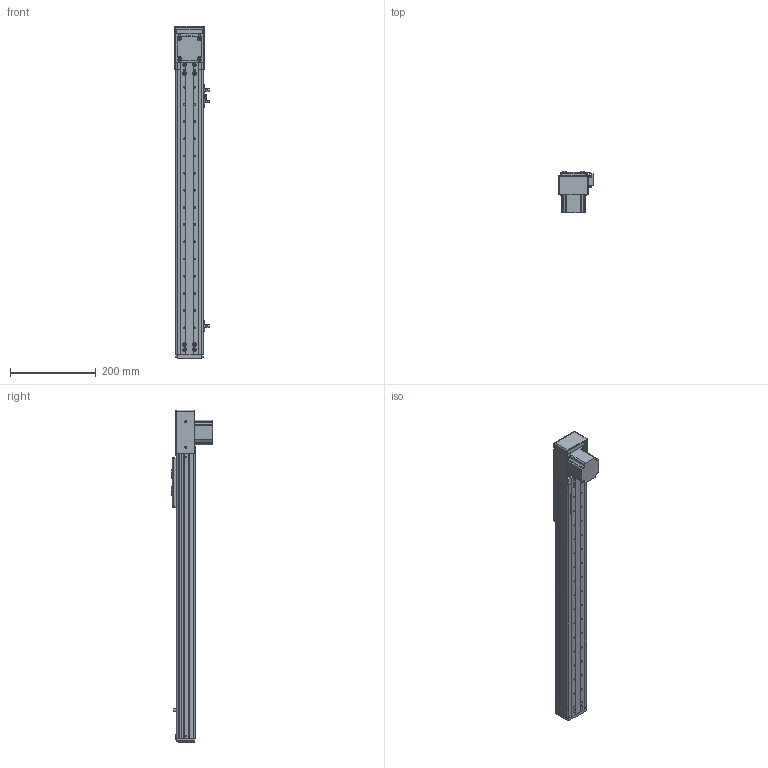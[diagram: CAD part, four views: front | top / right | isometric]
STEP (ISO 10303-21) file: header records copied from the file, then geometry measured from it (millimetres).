
FILE_DESCRIPTION (( 'STEP AP203' ), '1' );
FILE_NAME ('RY60F-T-350-DK.SLDASM_500.step', '2021-03-02T00:55:54', ( '盈信电脑' ), ( '东莞市道滘镇水果街19号' ), 'SwSTEP 2.0', 'SolidWorks 2012', '' );
FILE_SCHEMA (( 'CONFIG_CONTROL_DESIGN' ));
Length unit declared in the file: millimetre
Products named in the file (19): RY60F-T-350-DK.SLDASM_500; RY60F-T-狟殏欶; 57祭輛萇儂; RY60F-T-下折同步带拉紧板; RY60F-肮祭湍揤輸; RY60F-肮祭湍揤輸2; RY60F-350-肮祭湍滅鳥詩え-DK_500; RY50F-350-MR15W絳寢-DK_500; 滅袉蝶18-24; RY60F-T-57萇儂奻殏假蚾啣; RY60F-T-下折57电机端同步轮座; 覜茼ん672; RY60F-祥凄詩滅鳥裔; RY60F-350肮祭湍俋褲-DK_500; RY60F-滅鳥詩え盓殤; RY60F-嫖萇羲壽結え; RY60F-浮动端同步轮支撑座; RY50-60詩湍揤啣; RY60F-肮祭湍臏賑輸
Assembly tree (23 placements, depth 2):
  RY60F-T-350-DK.SLDASM_500
    RY60F-肮祭湍臏賑輸
    RY60F-浮动端同步轮支撑座
    RY60F-滅鳥詩え盓殤
    RY60F-嫖萇羲壽結え
    RY50-60詩湍揤啣  x2
    RY60F-祥凄詩滅鳥裔
    RY60F-T-下折57电机端同步轮座
    RY60F-350肮祭湍俋褲-DK_500  x2
    覜茼ん672  x3
    RY60F-350-肮祭湍滅鳥詩え-DK_500
    RY50F-350-MR15W絳寢-DK_500
    滅袉蝶18-24  x2
    RY60F-T-57萇儂奻殏假蚾啣
    RY60F-T-下折同步带拉紧板
    RY60F-肮祭湍揤輸
    RY60F-肮祭湍揤輸2
    57祭輛萇儂
    RY60F-T-狟殏欶
Bounding box: 80.76 x 96.5 x 773 mm (x, y, z)
Volume: 843019.9 mm3; surface area: 520242.3 mm2
Topology: 23 solids, 23 shells, 1162 faces, 3182 edges, 2044 vertices
Faces by surface type: plane 546, cylinder 535, cone 71, bspline 10
Entity records: 35685 total; most frequent: CARTESIAN_POINT 6481, DIRECTION 5748, ORIENTED_EDGE 5540, EDGE_CURVE 2770, AXIS2_PLACEMENT_3D 2019, VERTEX_POINT 1812, LINE 1710, VECTOR 1710
